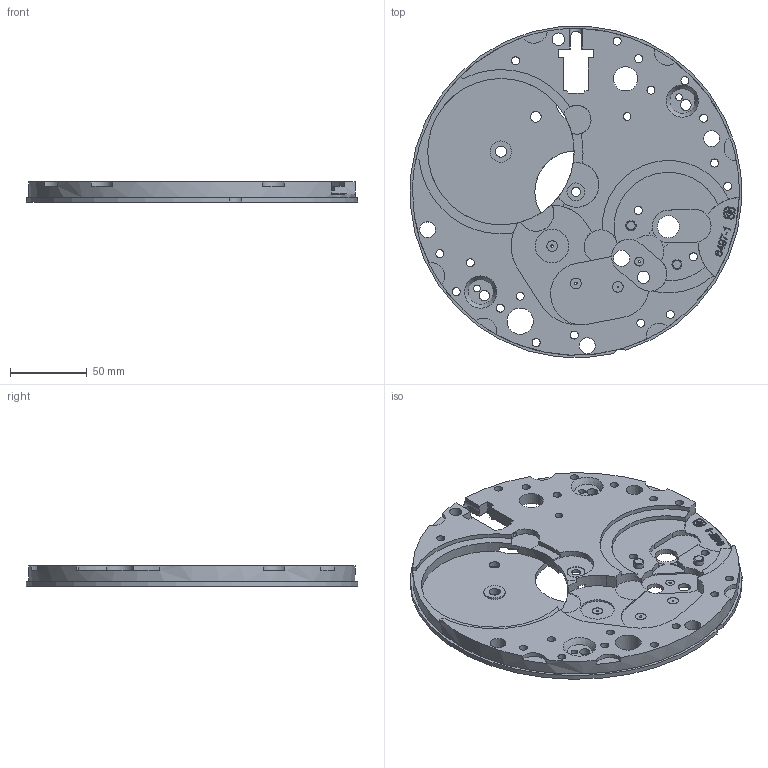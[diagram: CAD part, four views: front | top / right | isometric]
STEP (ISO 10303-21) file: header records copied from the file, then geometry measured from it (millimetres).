
FILE_DESCRIPTION(/* description */ (''),/* implementation_level */ '2;1');
FILE_NAME(/* name */ 'D:\Desktop\Benchmark CAD Files\ScaledBy6\face6.stp',/* time_stamp */ '2019-08-13T08:23:45+02:00',/* author */ ('fkhad'),/* organization */ (''),/* preprocessor_version */ 'ST-DEVELOPER v17',/* originating_system */ 'Autodesk Inventor 2018',/* authorisation */ '');
FILE_SCHEMA (('AUTOMOTIVE_DESIGN { 1 0 10303 214 3 1 1 }'));
Length unit declared in the file: millimetre
Products named in the file (1): Face
Bounding box: 215.26 x 215.26 x 13.05 mm (x, y, z)
Volume: 245642.2 mm3; surface area: 94566.7 mm2
Topology: 7 solids, 7 shells, 471 faces, 1365 edges, 956 vertices
Faces by surface type: plane 228, cylinder 170, bspline 57, cone 10, sphere 4, torus 2
Full cylindrical faces by diameter (mm): 0.87 x1, 1.392 x1, 1.566 x2, 2.9 x1, 3.48 x1, 4.333 x1, 4.35 x1, 4.522 x1, 4.92 x1, 5.22 x19, 5.8 x2, 6 x1, 6.472 x1, 6.67 x1, 6.743 x1, 6.96 x7, 6.975 x1, 7.25 x1, 7.54 x14, 7.62 x1, 7.976 x1, 8.12 x2, 8.571 x1, 8.7 x1, 10.253 x1, 10.325 x1, 10.365 x1, 10.577 x1, 11.6 x2, 13.92 x1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
Entity records: 19516 total; most frequent: CARTESIAN_POINT 6038, ORIENTED_EDGE 2730, DIRECTION 2681, EDGE_CURVE 1365, AXIS2_PLACEMENT_3D 1020, VERTEX_POINT 956, LINE 641, VECTOR 641
